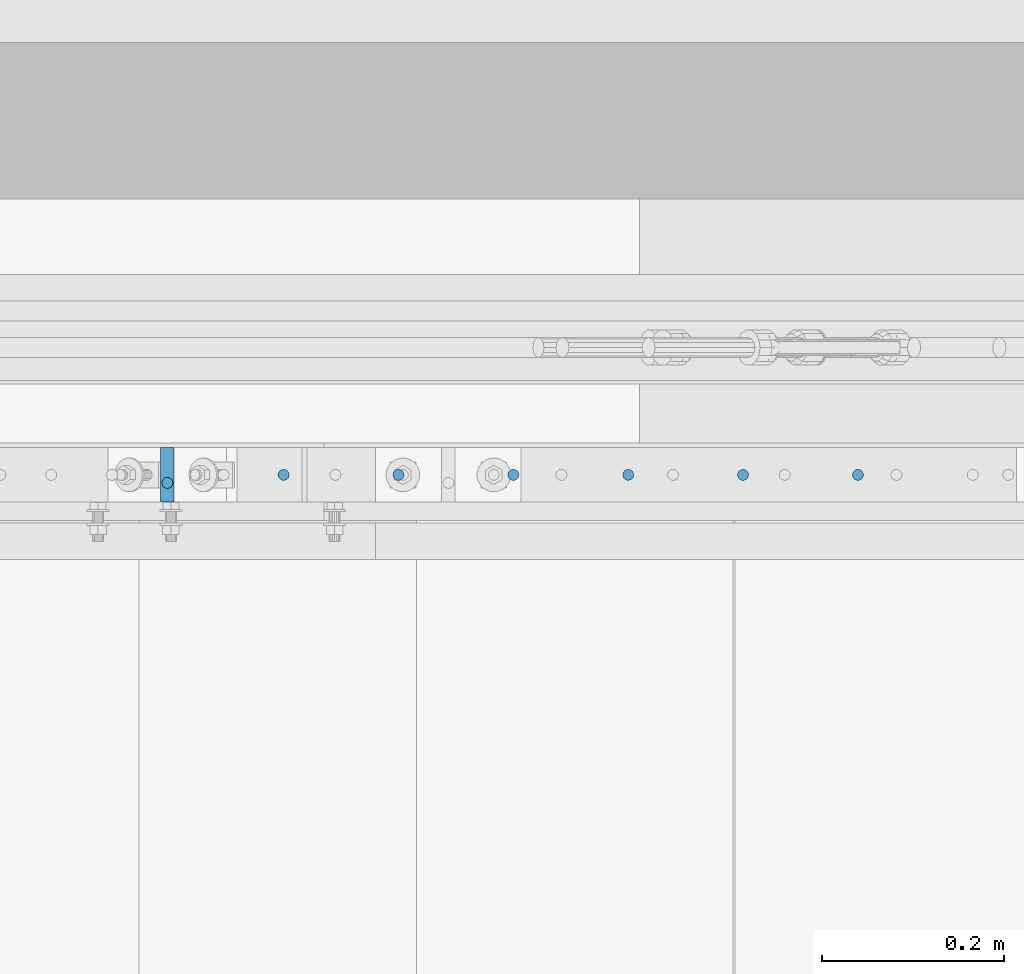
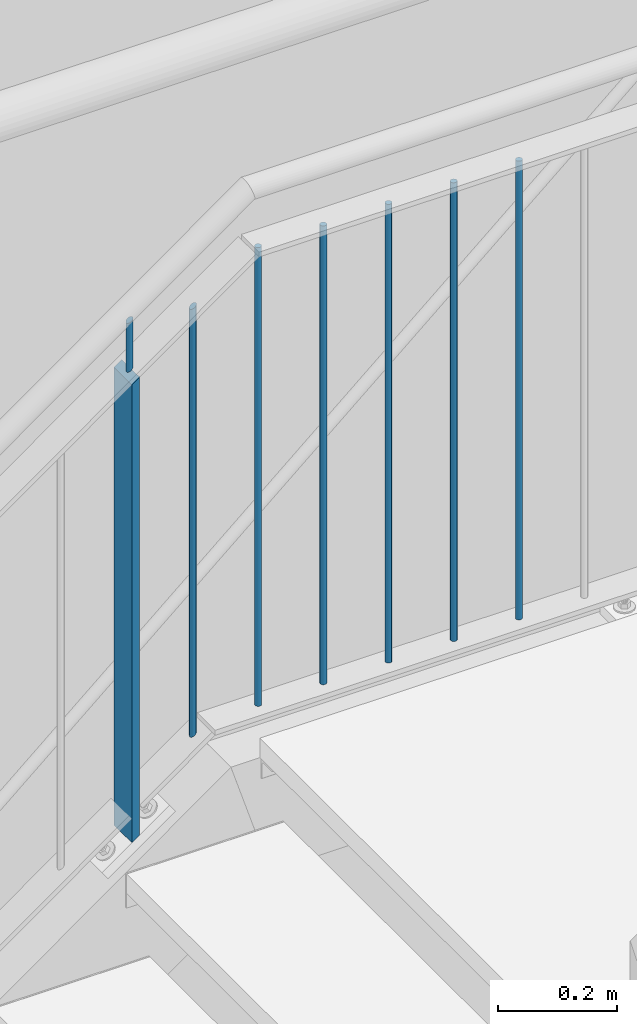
# One storey, part 104 of 825: 8 columns.
"""IFC2X3 building model written with IfcOpenShell, lengths in millimetres."""

from ifc_helpers import new_model, entity, si_unit, converted_unit, frame, origin, origin_with_axes, origin_2d, place, context, project, spatial, rectangle, circle, extrude, clip, halfspace, material, element, save


model = new_model("IFC2X3")

# Units and contexts
model_context = context("Model", 3, precision=1e-09, world=origin_with_axes())
ifc_project = project(units=[si_unit("LENGTHUNIT", "METRE", prefix="MILLI"), si_unit("AREAUNIT", "SQUARE_METRE"), si_unit("VOLUMEUNIT", "CUBIC_METRE"), converted_unit("PLANEANGLEUNIT", "DEGREE", entity("IfcPlaneAngleMeasure", 0.01745329), si_unit("PLANEANGLEUNIT", "RADIAN"), dimensions=[0, 0, 0, 0, 0, 0, 0])], contexts=[model_context])

# Site, building, storey
site_placement = place(None, origin_with_axes())
site = spatial("IfcSite", under=ifc_project, at=site_placement, Name="Cnopf'sche Kinderklinik", CompositionType="ELEMENT")
building_placement = place(site_placement, origin_with_axes())
building = spatial("IfcBuilding", under=site, at=building_placement, Name="Struktur 1", CompositionType="ELEMENT")
storey_placement = place(building_placement, origin_with_axes())
storey = spatial("IfcBuildingStorey", under=building, at=storey_placement, Name="Default Storey", CompositionType="ELEMENT", Elevation=0.0)

# Columns
ifc_material = material(Name="S235JR")
column_1_placement = place(None, frame((7347.867108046, 7356.736971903, 3057.787369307), z_axis=(0.0, 0.0, 1.0), x_axis=(1.0, 0.0, 0.0)))
element("IfcColumn", 1, at=column_1_placement, inside=storey, material=ifc_material, Name="Railing_Post_Stair#2", ObjectType="Railing_Post_Stair#2", context=model_context, shape_type="Clipping", body=[
    clip(clip(extrude(rectangle(XDim=15.0, YDim=60.0, at=origin_2d()), origin(), (0.0, 0.0, -1.0), 1013.069146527), halfspace(frame((-5860.263942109, -7356.736971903, -5147.283996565), z_axis=(-0.579973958, 0.0, 0.814635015), x_axis=(0.0, -1.0, 0.0)), True)), halfspace(frame((-6303.035209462, -7356.736971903, -4525.364730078), z_axis=(0.579973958, 0.0, -0.814635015), x_axis=(0.0, 1.0, 0.0)), True)),
])
column_2_placement = place(None, frame((7475.627108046, 7356.736971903, 3121.201611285), z_axis=(0.0, 0.0, 1.0), x_axis=(1.0, 0.0, 0.0)))
element("IfcColumn", 2, at=column_2_placement, inside=storey, material=ifc_material, Name="Railing_Picket_Stair#14", ObjectType="Railing_Picket_Stair#14", context=model_context, shape_type="Clipping", body=[
    clip(clip(extrude(circle(Radius=6.0, at=origin_2d()), origin(), (0.0, 0.0, -1.0), 896.604693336), halfspace(frame((-6430.795209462, -7356.736971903, -4588.778972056), z_axis=(0.579973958, 0.0, -0.814635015), x_axis=(0.0, 1.0, 0.0)), True)), halfspace(frame((-6017.022639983, -7356.736971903, -5169.966487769), z_axis=(-0.579973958, 0.0, 0.814635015), x_axis=(0.0, -1.0, 0.0)), True)),
])
column_3_placement = place(None, frame((7601.886627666, 7356.736971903, 3189.8526312), z_axis=(0.0, 0.0, 1.0), x_axis=(1.0, 0.0, 0.0)))
element("IfcColumn", 3, at=column_3_placement, inside=storey, material=ifc_material, Name="Railing_Picket_Landing#15", ObjectType="Railing_Picket_Landing#15", context=model_context, shape_type="SweptSolid", body=[
    extrude(circle(Radius=6.0, at=origin_2d()), origin(), (0.0, 0.0, -1.0), 938.8),
])
column_4_placement = place(None, frame((7728.146147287, 7356.736971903, 3203.337912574), z_axis=(0.0, 0.0, 1.0), x_axis=(1.0, 0.0, 0.0)))
element("IfcColumn", 4, at=column_4_placement, inside=storey, material=ifc_material, Name="Railing_Picket_Landing#16", ObjectType="Railing_Picket_Landing#16", context=model_context, shape_type="Clipping", body=[
    clip(clip(extrude(circle(Radius=6.0, at=origin_2d()), origin(), (0.0, 0.0, -1.0), 965.770562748), halfspace(frame((-7728.146147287, -7356.736971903, -13.486281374), z_axis=(0.0, 0.0, -1.0), x_axis=(-1.0, 0.0, 0.0)), True)), halfspace(frame((-7728.146147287, -7356.736971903, -952.284281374), z_axis=(0.0, 0.0, 1.0), x_axis=(1.0, 0.0, 0.0)), True)),
])
column_5_placement = place(None, frame((7854.405666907, 7356.736971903, 3203.337912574), z_axis=(0.0, 0.0, 1.0), x_axis=(1.0, 0.0, 0.0)))
element("IfcColumn", 5, at=column_5_placement, inside=storey, material=ifc_material, Name="Railing_Picket_Landing#17", ObjectType="Railing_Picket_Landing#17", context=model_context, shape_type="Clipping", body=[
    clip(clip(extrude(circle(Radius=6.0, at=origin_2d()), origin(), (0.0, 0.0, -1.0), 965.770562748), halfspace(frame((-7854.405666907, -7356.736971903, -13.486281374), z_axis=(0.0, 0.0, -1.0), x_axis=(-1.0, 0.0, 0.0)), True)), halfspace(frame((-7854.405666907, -7356.736971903, -952.284281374), z_axis=(0.0, 0.0, 1.0), x_axis=(1.0, 0.0, 0.0)), True)),
])
column_6_placement = place(None, frame((7980.665186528, 7356.736971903, 3203.337912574), z_axis=(0.0, 0.0, 1.0), x_axis=(1.0, 0.0, 0.0)))
element("IfcColumn", 6, at=column_6_placement, inside=storey, material=ifc_material, Name="Railing_Picket_Landing#18", ObjectType="Railing_Picket_Landing#18", context=model_context, shape_type="Clipping", body=[
    clip(clip(extrude(circle(Radius=6.0, at=origin_2d()), origin(), (0.0, 0.0, -1.0), 965.770562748), halfspace(frame((-7980.665186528, -7356.736971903, -13.486281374), z_axis=(0.0, 0.0, -1.0), x_axis=(-1.0, 0.0, 0.0)), True)), halfspace(frame((-7980.665186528, -7356.736971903, -952.284281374), z_axis=(0.0, 0.0, 1.0), x_axis=(1.0, 0.0, 0.0)), True)),
])
column_7_placement = place(None, frame((8106.924706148, 7356.736971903, 3203.337912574), z_axis=(0.0, 0.0, 1.0), x_axis=(1.0, 0.0, 0.0)))
element("IfcColumn", 7, at=column_7_placement, inside=storey, material=ifc_material, Name="Railing_Picket_Landing#19", ObjectType="Railing_Picket_Landing#19", context=model_context, shape_type="Clipping", body=[
    clip(clip(extrude(circle(Radius=6.0, at=origin_2d()), origin(), (0.0, 0.0, -1.0), 965.770562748), halfspace(frame((-8106.924706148, -7356.736971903, -13.486281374), z_axis=(0.0, 0.0, -1.0), x_axis=(-1.0, 0.0, 0.0)), True)), halfspace(frame((-8106.924706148, -7356.736971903, -952.284281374), z_axis=(0.0, 0.0, 1.0), x_axis=(1.0, 0.0, 0.0)), True)),
])
column_8_placement = place(None, frame((7347.867108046, 7347.936971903, 3142.519168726), z_axis=(0.0, 0.0, 1.0), x_axis=(0.0, -1.0, 0.0)))
element("IfcColumn", 8, at=column_8_placement, inside=storey, material=ifc_material, Name="Bar#2", ObjectType="Bar#2", context=model_context, shape_type="Clipping", body=[
    clip(clip(extrude(circle(Radius=6.0, at=origin_2d()), origin(), (0.0, 0.0, -1.0), 120.832105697), halfspace(frame((7347.936971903, -6308.836108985, -4601.948550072), z_axis=(0.0, -0.579973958, 0.814635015), x_axis=(1.0, 0.0, 0.0)), True)), halfspace(frame((7347.936971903, -6356.08165843, -4535.587158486), z_axis=(0.0, 0.579973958, -0.814635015), x_axis=(-1.0, 0.0, 0.0)), True)),
])

save(model, "model.ifc")
